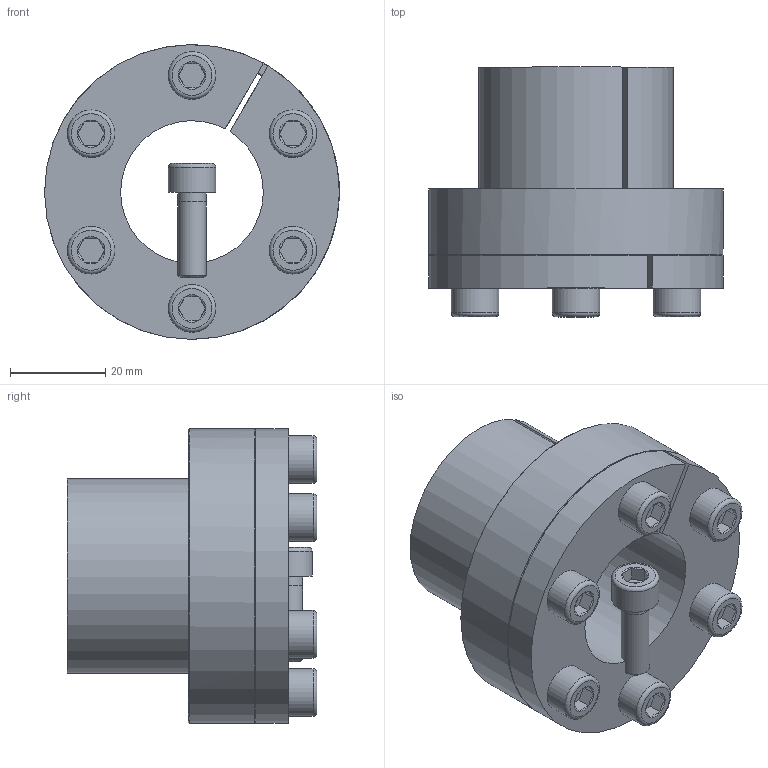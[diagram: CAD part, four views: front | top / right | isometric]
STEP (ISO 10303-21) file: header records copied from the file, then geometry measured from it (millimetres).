
FILE_DESCRIPTION( ( 'Unknown' ), '1' );
FILE_NAME( 'C:/Dokumente und Einstellungen/Sven/Desktop/homepage/cad - homepage/KBS80/KBS 80 - 30 x 41.stp', 'Unknown', ( 'Unknown' ), ( 'Unknown' ), 'XStep 1.0', 'Unknown', ' ' );
FILE_SCHEMA( ( 'automotive_design' ) );
Length unit declared in the file: millimetre
Products named in the file (8): Assem1; KBS 80 - 30 x 41; ISO EN DIN 4762 M6x18; ISO EN DIN 4762 M6x18-oa0; ISO EN DIN 4762 M6x18-oa1; ISO EN DIN 4762 M6x18-oa2; ISO EN DIN 4762 M6x18-oa3; ISO EN DIN 4762 M6x18-oa4
Bounding box: 62 x 52.5 x 62 mm (x, y, z)
Volume: 130804.5 mm3; surface area: 47293.4 mm2
Topology: 14 solids, 14 shells, 352 faces, 666 edges, 388 vertices
Faces by surface type: plane 160, cone 98, cylinder 70, torus 24
Full cylindrical faces by diameter (mm): 5 x12, 6 x36, 10 x12, 62 x2
Entity records: 4529 total; most frequent: CARTESIAN_POINT 931, DIRECTION 724, ORIENTED_EDGE 534, AXIS2_PLACEMENT_3D 317, EDGE_CURVE 267, EDGE_LOOP 265, FACE_OUTER_BOUND 219, VERTEX_POINT 180
